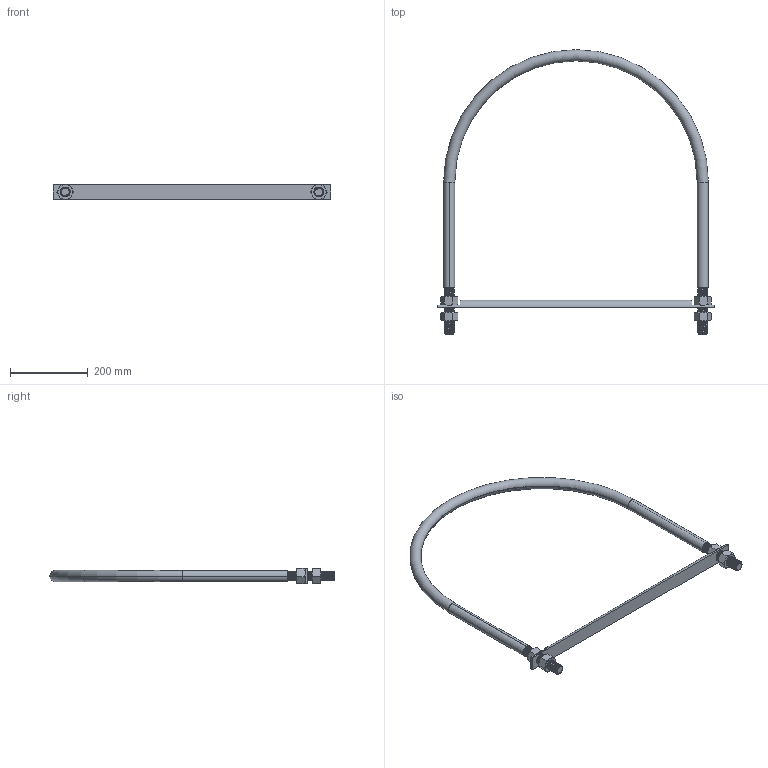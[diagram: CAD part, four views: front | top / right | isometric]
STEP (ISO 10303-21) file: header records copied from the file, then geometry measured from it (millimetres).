
FILE_DESCRIPTION (( 'STEP AP214' ), '1' );
FILE_NAME ('NUB1477.STEP', '2022-04-04T17:59:36', ( '' ), ( '' ), 'SwSTEP 2.0', 'SolidWorks 2021', '' );
FILE_SCHEMA (( 'AUTOMOTIVE_DESIGN' ));
Length unit declared in the file: inch
Products named in the file (4): ROD0651_IR24-24 XL [ROD0651]]; NUB1477; UBT1004_UBT24-24-1-8 XL [NUB1477]; FAS0050
Assembly tree (6 placements, depth 2):
  NUB1477
    FAS0050  x4
    UBT1004_UBT24-24-1-8 XL [NUB1477]
    ROD0651_IR24-24 XL [ROD0651]]
Bounding box: 711.2 x 730.35 x 39.77 mm (x, y, z)
Volume: 1483540.3 mm3; surface area: 517368 mm2
Topology: 7 solids, 7 shells, 309 faces, 817 edges, 522 vertices
Faces by surface type: cylinder 178, cone 76, plane 45, torus 6, bspline 4
Entity records: 19579 total; most frequent: CARTESIAN_POINT 14397, ORIENTED_EDGE 1238, DIRECTION 816, EDGE_CURVE 619, VERTEX_POINT 405, AXIS2_PLACEMENT_3D 308, EDGE_LOOP 230, ADVANCED_FACE 222
